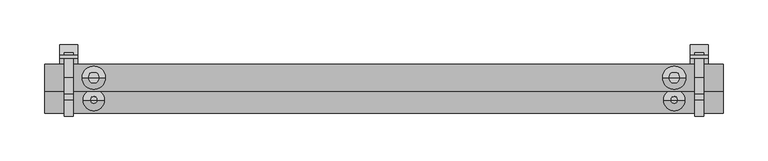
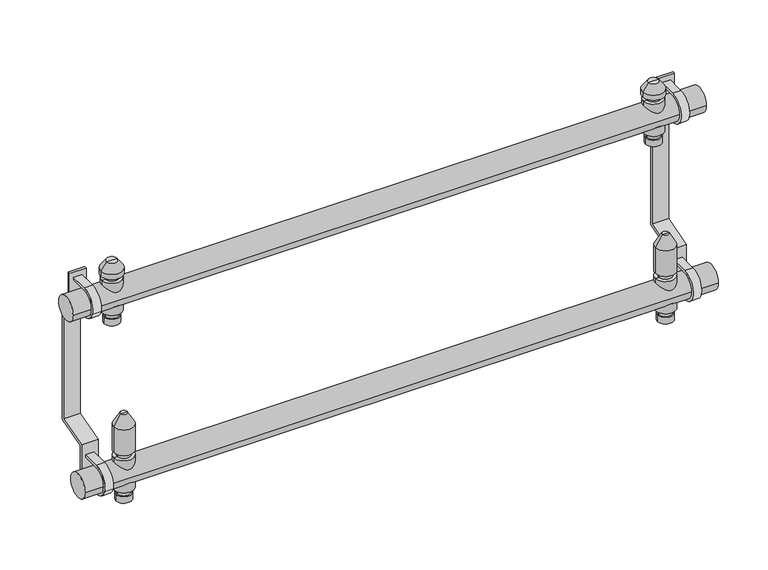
"""IFC4 building model written with IfcOpenShell, lengths in millimetres: valve geometry, PL CZ_Manifold_FT-VA : 14 circuits."""

from ifc_helpers import new_model, si_unit, point, frame, frame_2d, origin, origin_2d, place, context, project, spatial, polyline, circle_curve, trimmed, segment, composite_curve, outline, extrude, source, transform, mapped, element, save
from ifc_brep_helpers import plane_surface, cylinder_surface, revolved_surface, advanced_brep


def valve_e0eb0583(model_context):
    return source(origin(), model_context, "Body", "SolidModel", [
        advanced_brep(
        [(678.5, 0.0, -35.11267), (697.5, 0.0, -35.11267), (688.0, 0.0, -35.11267), (678.5, 0.0, -27.0369646), (697.5, 0.0, -27.0369646), (680.0, 0.0, -27.0369646), (696.0, 0.0, -27.0369646), (680.0, 0.0, -20.330253), (696.0, 0.0, -20.330253), (676.0, 0.0, -20.330253), (700.0, 0.0, -20.330253), (676.0, 0.0, 20.330253), (700.0, 0.0, 20.330253), (680.0, 0.0, 20.330253), (696.0, 0.0, 20.330253), (680.0, 0.0, 27.0474786), (696.0, 0.0, 27.0474786), (676.0, 0.0, 27.0474786), (700.0, 0.0, 27.0474786), (676.0, 0.0, 59.4084325), (700.0, 0.0, 59.4084325), (684.0, 0.0, 73.264839), (692.0, 0.0, 73.264839), (688.0, 0.0, 73.264839)],
        [
            (0, 1, circle_curve(frame((688.0, 0.0, -35.11267), z_axis=(0.0, 0.0, -1.0), x_axis=(1.0, 0.0, 0.0)), 9.5)),
            (1, 2),
            (2, 0),
            (1, 0, circle_curve(frame((688.0, 0.0, -35.11267), z_axis=(0.0, 0.0, -1.0), x_axis=(1.0, 0.0, 0.0)), 9.5)),
            (3, 4, circle_curve(frame((688.0, 0.0, -27.0369646), z_axis=(0.0, 0.0, -1.0), x_axis=(1.0, 0.0, 0.0)), 9.5)),
            (4, 1),
            (0, 3),
            (4, 3, circle_curve(frame((688.0, 0.0, -27.0369646), z_axis=(0.0, 0.0, -1.0), x_axis=(1.0, 0.0, 0.0)), 9.5)),
            (5, 6, circle_curve(frame((688.0, 0.0, -27.0369646), z_axis=(0.0, 0.0, -1.0), x_axis=(1.0, 0.0, 0.0)), 8.0)),
            (6, 4),
            (3, 5),
            (6, 5, circle_curve(frame((688.0, 0.0, -27.0369646), z_axis=(0.0, 0.0, -1.0), x_axis=(1.0, 0.0, 0.0)), 8.0)),
            (7, 8, circle_curve(frame((688.0, 0.0, -20.330253), z_axis=(0.0, 0.0, -1.0), x_axis=(1.0, 0.0, 0.0)), 8.0)),
            (8, 6),
            (5, 7),
            (8, 7, circle_curve(frame((688.0, 0.0, -20.330253), z_axis=(0.0, 0.0, -1.0), x_axis=(1.0, 0.0, 0.0)), 8.0)),
            (9, 10, circle_curve(frame((688.0, 0.0, -20.330253), z_axis=(0.0, 0.0, -1.0), x_axis=(1.0, 0.0, 0.0)), 12.0)),
            (10, 8),
            (7, 9),
            (10, 9, circle_curve(frame((688.0, 0.0, -20.330253), z_axis=(0.0, 0.0, -1.0), x_axis=(1.0, 0.0, 0.0)), 12.0)),
            (11, 12, circle_curve(frame((688.0, 0.0, 20.330253), z_axis=(0.0, 0.0, -1.0), x_axis=(1.0, 0.0, 0.0)), 12.0)),
            (12, 10),
            (9, 11),
            (12, 11, circle_curve(frame((688.0, 0.0, 20.330253), z_axis=(0.0, 0.0, -1.0), x_axis=(1.0, 0.0, 0.0)), 12.0)),
            (13, 14, circle_curve(frame((688.0, 0.0, 20.330253), z_axis=(0.0, 0.0, -1.0), x_axis=(1.0, 0.0, 0.0)), 8.0)),
            (14, 12),
            (11, 13),
            (14, 13, circle_curve(frame((688.0, 0.0, 20.330253), z_axis=(0.0, 0.0, -1.0), x_axis=(1.0, 0.0, 0.0)), 8.0)),
            (15, 16, circle_curve(frame((688.0, 0.0, 27.0474786), z_axis=(0.0, 0.0, -1.0), x_axis=(1.0, 0.0, 0.0)), 8.0)),
            (16, 14),
            (13, 15),
            (16, 15, circle_curve(frame((688.0, 0.0, 27.0474786), z_axis=(0.0, 0.0, -1.0), x_axis=(1.0, 0.0, 0.0)), 8.0)),
            (17, 18, circle_curve(frame((688.0, 0.0, 27.0474786), z_axis=(0.0, 0.0, -1.0), x_axis=(1.0, 0.0, 0.0)), 12.0)),
            (18, 16),
            (15, 17),
            (18, 17, circle_curve(frame((688.0, 0.0, 27.0474786), z_axis=(0.0, 0.0, -1.0), x_axis=(1.0, 0.0, 0.0)), 12.0)),
            (19, 20, circle_curve(frame((688.0, 0.0, 59.4084325), z_axis=(0.0, 0.0, -1.0), x_axis=(1.0, 0.0, 0.0)), 12.0)),
            (20, 18),
            (17, 19),
            (20, 19, circle_curve(frame((688.0, 0.0, 59.4084325), z_axis=(0.0, 0.0, -1.0), x_axis=(1.0, 0.0, 0.0)), 12.0)),
            (21, 22, circle_curve(frame((688.0, 0.0, 73.264839), z_axis=(0.0, 0.0, -1.0), x_axis=(1.0, 0.0, 0.0)), 4.0)),
            (22, 20),
            (19, 21),
            (22, 21, circle_curve(frame((688.0, 0.0, 73.264839), z_axis=(0.0, 0.0, -1.0), x_axis=(1.0, 0.0, 0.0)), 4.0)),
            (23, 22),
            (21, 23),
        ],
        [
            plane_surface(frame((688.0, 0.0, -35.11267), z_axis=(0.0, 0.0, -1.0), x_axis=(1.0, 0.0, 0.0))),
            cylinder_surface(frame((688.0, 0.0, 58.264839), z_axis=(0.0, 0.0, 1.0), x_axis=(1.0, 0.0, 0.0)), 9.5),
            plane_surface(frame((688.0, 0.0, -27.0369646), z_axis=(0.0, 0.0, 1.0), x_axis=(1.0, 0.0, 0.0))),
            cylinder_surface(frame((688.0, 0.0, 58.264839), z_axis=(0.0, 0.0, 1.0), x_axis=(1.0, 0.0, 0.0)), 8.0),
            plane_surface(frame((688.0, 0.0, -20.330253), z_axis=(0.0, 0.0, -1.0), x_axis=(1.0, 0.0, 0.0))),
            cylinder_surface(frame((688.0, 0.0, 58.264839), z_axis=(0.0, 0.0, 1.0), x_axis=(1.0, 0.0, 0.0)), 12.0),
            plane_surface(frame((688.0, 0.0, 20.330253), z_axis=(0.0, 0.0, 1.0), x_axis=(1.0, 0.0, 0.0))),
            plane_surface(frame((688.0, 0.0, 27.0474786), z_axis=(0.0, 0.0, -1.0), x_axis=(1.0, 0.0, 0.0))),
            revolved_surface(polyline([(700.0, 0.0, 59.4084325), (692.0, 0.0, 73.264839)]), (688.0, 0.0, 58.264839), (0.0, 0.0, 1.0)),
            plane_surface(frame((688.0, 0.0, 73.264839), z_axis=(0.0, 0.0, 1.0), x_axis=(1.0, 0.0, 0.0))),
        ],
        [
            (0, [[1, 2, 3]]),
            (0, [[4, -3, -2]]),
            (1, [[5, 6, -1, 7]]),
            (1, [[8, -7, -4, -6]]),
            (2, [[9, 10, -5, 11]]),
            (2, [[12, -11, -8, -10]]),
            (3, [[13, 14, -9, 15]]),
            (3, [[16, -15, -12, -14]]),
            (4, [[17, 18, -13, 19]]),
            (4, [[20, -19, -16, -18]]),
            (5, [[21, 22, -17, 23]]),
            (5, [[24, -23, -20, -22]]),
            (6, [[25, 26, -21, 27]]),
            (6, [[28, -27, -24, -26]]),
            (3, [[29, 30, -25, 31]]),
            (3, [[32, -31, -28, -30]]),
            (7, [[33, 34, -29, 35]]),
            (7, [[36, -35, -32, -34]]),
            (5, [[37, 38, -33, 39]]),
            (5, [[40, -39, -36, -38]]),
            (8, [[41, 42, -37, 43]]),
            (8, [[44, -43, -40, -42]]),
            (9, [[45, -41, 46]]),
            (9, [[-46, -44, -45]]),
        ],
    ),
        advanced_brep(
        [(678.5, 25.0, 174.88733), (697.5, 25.0, 174.88733), (688.0, 25.0, 174.88733), (678.5, 25.0, 182.9630354), (697.5, 25.0, 182.9630354), (680.0, 25.0, 182.9630354), (696.0, 25.0, 182.9630354), (680.0, 25.0, 189.669747), (696.0, 25.0, 189.669747), (676.0, 25.0, 189.669747), (700.0, 25.0, 189.669747), (676.0, 25.0, 230.330253), (700.0, 25.0, 230.330253), (680.0, 25.0, 230.330253), (696.0, 25.0, 230.330253), (680.0, 25.0, 236.0474786), (696.0, 25.0, 236.0474786), (675.0, 25.0, 236.0474786), (701.0, 25.0, 236.0474786), (675.0, 25.0, 242.337955), (701.0, 25.0, 242.337955), (681.6551779, 25.0, 251.842534), (694.3448221, 25.0, 251.842534), (688.0, 25.0, 251.842534)],
        [
            (0, 1, circle_curve(frame((688.0, 25.0, 174.88733), z_axis=(0.0, 0.0, -1.0), x_axis=(1.0, 0.0, 0.0)), 9.5)),
            (1, 2),
            (2, 0),
            (1, 0, circle_curve(frame((688.0, 25.0, 174.88733), z_axis=(0.0, 0.0, -1.0), x_axis=(1.0, 0.0, 0.0)), 9.5)),
            (3, 4, circle_curve(frame((688.0, 25.0, 182.9630354), z_axis=(0.0, 0.0, -1.0), x_axis=(1.0, 0.0, 0.0)), 9.5)),
            (4, 1),
            (0, 3),
            (4, 3, circle_curve(frame((688.0, 25.0, 182.9630354), z_axis=(0.0, 0.0, -1.0), x_axis=(1.0, 0.0, 0.0)), 9.5)),
            (5, 6, circle_curve(frame((688.0, 25.0, 182.9630354), z_axis=(0.0, 0.0, -1.0), x_axis=(1.0, 0.0, 0.0)), 8.0)),
            (6, 4),
            (3, 5),
            (6, 5, circle_curve(frame((688.0, 25.0, 182.9630354), z_axis=(0.0, 0.0, -1.0), x_axis=(1.0, 0.0, 0.0)), 8.0)),
            (7, 8, circle_curve(frame((688.0, 25.0, 189.669747), z_axis=(0.0, 0.0, -1.0), x_axis=(1.0, 0.0, 0.0)), 8.0)),
            (8, 6),
            (5, 7),
            (8, 7, circle_curve(frame((688.0, 25.0, 189.669747), z_axis=(0.0, 0.0, -1.0), x_axis=(1.0, 0.0, 0.0)), 8.0)),
            (9, 10, circle_curve(frame((688.0, 25.0, 189.669747), z_axis=(0.0, 0.0, -1.0), x_axis=(1.0, 0.0, 0.0)), 12.0)),
            (10, 8),
            (7, 9),
            (10, 9, circle_curve(frame((688.0, 25.0, 189.669747), z_axis=(0.0, 0.0, -1.0), x_axis=(1.0, 0.0, 0.0)), 12.0)),
            (11, 12, circle_curve(frame((688.0, 25.0, 230.330253), z_axis=(0.0, 0.0, -1.0), x_axis=(1.0, 0.0, 0.0)), 12.0)),
            (12, 10),
            (9, 11),
            (12, 11, circle_curve(frame((688.0, 25.0, 230.330253), z_axis=(0.0, 0.0, -1.0), x_axis=(1.0, 0.0, 0.0)), 12.0)),
            (13, 14, circle_curve(frame((688.0, 25.0, 230.330253), z_axis=(0.0, 0.0, -1.0), x_axis=(1.0, 0.0, 0.0)), 8.0)),
            (14, 12),
            (11, 13),
            (14, 13, circle_curve(frame((688.0, 25.0, 230.330253), z_axis=(0.0, 0.0, -1.0), x_axis=(1.0, 0.0, 0.0)), 8.0)),
            (15, 16, circle_curve(frame((688.0, 25.0, 236.0474786), z_axis=(0.0, 0.0, -1.0), x_axis=(1.0, 0.0, 0.0)), 8.0)),
            (16, 14),
            (13, 15),
            (16, 15, circle_curve(frame((688.0, 25.0, 236.0474786), z_axis=(0.0, 0.0, -1.0), x_axis=(1.0, 0.0, 0.0)), 8.0)),
            (17, 18, circle_curve(frame((688.0, 25.0, 236.0474786), z_axis=(0.0, 0.0, -1.0), x_axis=(1.0, 0.0, 0.0)), 13.0)),
            (18, 16),
            (15, 17),
            (18, 17, circle_curve(frame((688.0, 25.0, 236.0474786), z_axis=(0.0, 0.0, -1.0), x_axis=(1.0, 0.0, 0.0)), 13.0)),
            (19, 20, circle_curve(frame((688.0, 25.0, 242.337955), z_axis=(0.0, 0.0, -1.0), x_axis=(1.0, 0.0, 0.0)), 13.0)),
            (20, 18),
            (17, 19),
            (20, 19, circle_curve(frame((688.0, 25.0, 242.337955), z_axis=(0.0, 0.0, -1.0), x_axis=(1.0, 0.0, 0.0)), 13.0)),
            (21, 22, circle_curve(frame((688.0, 25.0, 251.842534), z_axis=(0.0, 0.0, -1.0), x_axis=(1.0, 0.0, 0.0)), 6.3448221)),
            (22, 20),
            (19, 21),
            (22, 21, circle_curve(frame((688.0, 25.0, 251.842534), z_axis=(0.0, 0.0, -1.0), x_axis=(1.0, 0.0, 0.0)), 6.3448221)),
            (23, 22),
            (21, 23),
        ],
        [
            plane_surface(frame((688.0, 25.0, 174.88733), z_axis=(0.0, 0.0, -1.0), x_axis=(1.0, 0.0, 0.0))),
            cylinder_surface(frame((688.0, 25.0, 247.7026565), z_axis=(0.0, 0.0, 1.0), x_axis=(1.0, 0.0, 0.0)), 9.5),
            plane_surface(frame((688.0, 25.0, 182.9630354), z_axis=(0.0, 0.0, 1.0), x_axis=(1.0, 0.0, 0.0))),
            cylinder_surface(frame((688.0, 25.0, 247.7026565), z_axis=(0.0, 0.0, 1.0), x_axis=(1.0, 0.0, 0.0)), 8.0),
            plane_surface(frame((688.0, 25.0, 189.669747), z_axis=(0.0, 0.0, -1.0), x_axis=(1.0, 0.0, 0.0))),
            cylinder_surface(frame((688.0, 25.0, 247.7026565), z_axis=(0.0, 0.0, 1.0), x_axis=(1.0, 0.0, 0.0)), 12.0),
            plane_surface(frame((688.0, 25.0, 230.330253), z_axis=(0.0, 0.0, 1.0), x_axis=(1.0, 0.0, 0.0))),
            plane_surface(frame((688.0, 25.0, 236.0474786), z_axis=(0.0, 0.0, -1.0), x_axis=(1.0, 0.0, 0.0))),
            cylinder_surface(frame((688.0, 25.0, 247.7026565), z_axis=(0.0, 0.0, 1.0), x_axis=(1.0, 0.0, 0.0)), 13.0),
            revolved_surface(polyline([(701.0, 25.0, 242.337955), (694.3448221, 25.0, 251.842534)]), (688.0, 25.0, 247.7026565), (0.0, 0.0, 1.0)),
            plane_surface(frame((688.0, 25.0, 251.842534), z_axis=(0.0, 0.0, 1.0), x_axis=(1.0, 0.0, 0.0))),
        ],
        [
            (0, [[1, 2, 3]]),
            (0, [[4, -3, -2]]),
            (1, [[5, 6, -1, 7]]),
            (1, [[8, -7, -4, -6]]),
            (2, [[9, 10, -5, 11]]),
            (2, [[12, -11, -8, -10]]),
            (3, [[13, 14, -9, 15]]),
            (3, [[16, -15, -12, -14]]),
            (4, [[17, 18, -13, 19]]),
            (4, [[20, -19, -16, -18]]),
            (5, [[21, 22, -17, 23]]),
            (5, [[24, -23, -20, -22]]),
            (6, [[25, 26, -21, 27]]),
            (6, [[28, -27, -24, -26]]),
            (3, [[29, 30, -25, 31]]),
            (3, [[32, -31, -28, -30]]),
            (7, [[33, 34, -29, 35]]),
            (7, [[36, -35, -32, -34]]),
            (8, [[37, 38, -33, 39]]),
            (8, [[40, -39, -36, -38]]),
            (9, [[41, 42, -37, 43]]),
            (9, [[44, -43, -40, -42]]),
            (10, [[45, -41, 46]]),
            (10, [[-46, -44, -45]]),
        ],
    ),
        advanced_brep(
        [(28.5, 25.0, 174.88733), (47.5, 25.0, 174.88733), (38.0, 25.0, 174.88733), (28.5, 25.0, 182.9630354), (47.5, 25.0, 182.9630354), (30.0, 25.0, 182.9630354), (46.0, 25.0, 182.9630354), (30.0, 25.0, 189.669747), (46.0, 25.0, 189.669747), (26.0, 25.0, 189.669747), (50.0, 25.0, 189.669747), (26.0, 25.0, 230.330253), (50.0, 25.0, 230.330253), (30.0, 25.0, 230.330253), (46.0, 25.0, 230.330253), (30.0, 25.0, 236.0474786), (46.0, 25.0, 236.0474786), (25.0, 25.0, 236.0474786), (51.0, 25.0, 236.0474786), (25.0, 25.0, 242.337955), (51.0, 25.0, 242.337955), (31.6551779, 25.0, 251.842534), (44.3448221, 25.0, 251.842534), (38.0, 25.0, 251.842534)],
        [
            (0, 1, circle_curve(frame((38.0, 25.0, 174.88733), z_axis=(0.0, 0.0, -1.0), x_axis=(1.0, 0.0, 0.0)), 9.5)),
            (1, 2),
            (2, 0),
            (1, 0, circle_curve(frame((38.0, 25.0, 174.88733), z_axis=(0.0, 0.0, -1.0), x_axis=(1.0, 0.0, 0.0)), 9.5)),
            (3, 4, circle_curve(frame((38.0, 25.0, 182.9630354), z_axis=(0.0, 0.0, -1.0), x_axis=(1.0, 0.0, 0.0)), 9.5)),
            (4, 1),
            (0, 3),
            (4, 3, circle_curve(frame((38.0, 25.0, 182.9630354), z_axis=(0.0, 0.0, -1.0), x_axis=(1.0, 0.0, 0.0)), 9.5)),
            (5, 6, circle_curve(frame((38.0, 25.0, 182.9630354), z_axis=(0.0, 0.0, -1.0), x_axis=(1.0, 0.0, 0.0)), 8.0)),
            (6, 4),
            (3, 5),
            (6, 5, circle_curve(frame((38.0, 25.0, 182.9630354), z_axis=(0.0, 0.0, -1.0), x_axis=(1.0, 0.0, 0.0)), 8.0)),
            (7, 8, circle_curve(frame((38.0, 25.0, 189.669747), z_axis=(0.0, 0.0, -1.0), x_axis=(1.0, 0.0, 0.0)), 8.0)),
            (8, 6),
            (5, 7),
            (8, 7, circle_curve(frame((38.0, 25.0, 189.669747), z_axis=(0.0, 0.0, -1.0), x_axis=(1.0, 0.0, 0.0)), 8.0)),
            (9, 10, circle_curve(frame((38.0, 25.0, 189.669747), z_axis=(0.0, 0.0, -1.0), x_axis=(1.0, 0.0, 0.0)), 12.0)),
            (10, 8),
            (7, 9),
            (10, 9, circle_curve(frame((38.0, 25.0, 189.669747), z_axis=(0.0, 0.0, -1.0), x_axis=(1.0, 0.0, 0.0)), 12.0)),
            (11, 12, circle_curve(frame((38.0, 25.0, 230.330253), z_axis=(0.0, 0.0, -1.0), x_axis=(1.0, 0.0, 0.0)), 12.0)),
            (12, 10),
            (9, 11),
            (12, 11, circle_curve(frame((38.0, 25.0, 230.330253), z_axis=(0.0, 0.0, -1.0), x_axis=(1.0, 0.0, 0.0)), 12.0)),
            (13, 14, circle_curve(frame((38.0, 25.0, 230.330253), z_axis=(0.0, 0.0, -1.0), x_axis=(1.0, 0.0, 0.0)), 8.0)),
            (14, 12),
            (11, 13),
            (14, 13, circle_curve(frame((38.0, 25.0, 230.330253), z_axis=(0.0, 0.0, -1.0), x_axis=(1.0, 0.0, 0.0)), 8.0)),
            (15, 16, circle_curve(frame((38.0, 25.0, 236.0474786), z_axis=(0.0, 0.0, -1.0), x_axis=(1.0, 0.0, 0.0)), 8.0)),
            (16, 14),
            (13, 15),
            (16, 15, circle_curve(frame((38.0, 25.0, 236.0474786), z_axis=(0.0, 0.0, -1.0), x_axis=(1.0, 0.0, 0.0)), 8.0)),
            (17, 18, circle_curve(frame((38.0, 25.0, 236.0474786), z_axis=(0.0, 0.0, -1.0), x_axis=(1.0, 0.0, 0.0)), 13.0)),
            (18, 16),
            (15, 17),
            (18, 17, circle_curve(frame((38.0, 25.0, 236.0474786), z_axis=(0.0, 0.0, -1.0), x_axis=(1.0, 0.0, 0.0)), 13.0)),
            (19, 20, circle_curve(frame((38.0, 25.0, 242.337955), z_axis=(0.0, 0.0, -1.0), x_axis=(1.0, 0.0, 0.0)), 13.0)),
            (20, 18),
            (17, 19),
            (20, 19, circle_curve(frame((38.0, 25.0, 242.337955), z_axis=(0.0, 0.0, -1.0), x_axis=(1.0, 0.0, 0.0)), 13.0)),
            (21, 22, circle_curve(frame((38.0, 25.0, 251.842534), z_axis=(0.0, 0.0, -1.0), x_axis=(1.0, 0.0, 0.0)), 6.3448221)),
            (22, 20),
            (19, 21),
            (22, 21, circle_curve(frame((38.0, 25.0, 251.842534), z_axis=(0.0, 0.0, -1.0), x_axis=(1.0, 0.0, 0.0)), 6.3448221)),
            (23, 22),
            (21, 23),
        ],
        [
            plane_surface(frame((38.0, 25.0, 174.88733), z_axis=(0.0, 0.0, -1.0), x_axis=(1.0, 0.0, 0.0))),
            cylinder_surface(frame((38.0, 25.0, 247.7026565), z_axis=(0.0, 0.0, 1.0), x_axis=(1.0, 0.0, 0.0)), 9.5),
            plane_surface(frame((38.0, 25.0, 182.9630354), z_axis=(0.0, 0.0, 1.0), x_axis=(1.0, 0.0, 0.0))),
            cylinder_surface(frame((38.0, 25.0, 247.7026565), z_axis=(0.0, 0.0, 1.0), x_axis=(1.0, 0.0, 0.0)), 8.0),
            plane_surface(frame((38.0, 25.0, 189.669747), z_axis=(0.0, 0.0, -1.0), x_axis=(1.0, 0.0, 0.0))),
            cylinder_surface(frame((38.0, 25.0, 247.7026565), z_axis=(0.0, 0.0, 1.0), x_axis=(1.0, 0.0, 0.0)), 12.0),
            plane_surface(frame((38.0, 25.0, 230.330253), z_axis=(0.0, 0.0, 1.0), x_axis=(1.0, 0.0, 0.0))),
            plane_surface(frame((38.0, 25.0, 236.0474786), z_axis=(0.0, 0.0, -1.0), x_axis=(1.0, 0.0, 0.0))),
            cylinder_surface(frame((38.0, 25.0, 247.7026565), z_axis=(0.0, 0.0, 1.0), x_axis=(1.0, 0.0, 0.0)), 13.0),
            revolved_surface(polyline([(51.0, 25.0, 242.337955), (44.3448221, 25.0, 251.842534)]), (38.0, 25.0, 247.7026565), (0.0, 0.0, 1.0)),
            plane_surface(frame((38.0, 25.0, 251.842534), z_axis=(0.0, 0.0, 1.0), x_axis=(1.0, 0.0, 0.0))),
        ],
        [
            (0, [[1, 2, 3]]),
            (0, [[4, -3, -2]]),
            (1, [[5, 6, -1, 7]]),
            (1, [[8, -7, -4, -6]]),
            (2, [[9, 10, -5, 11]]),
            (2, [[12, -11, -8, -10]]),
            (3, [[13, 14, -9, 15]]),
            (3, [[16, -15, -12, -14]]),
            (4, [[17, 18, -13, 19]]),
            (4, [[20, -19, -16, -18]]),
            (5, [[21, 22, -17, 23]]),
            (5, [[24, -23, -20, -22]]),
            (6, [[25, 26, -21, 27]]),
            (6, [[28, -27, -24, -26]]),
            (3, [[29, 30, -25, 31]]),
            (3, [[32, -31, -28, -30]]),
            (7, [[33, 34, -29, 35]]),
            (7, [[36, -35, -32, -34]]),
            (8, [[37, 38, -33, 39]]),
            (8, [[40, -39, -36, -38]]),
            (9, [[41, 42, -37, 43]]),
            (9, [[44, -43, -40, -42]]),
            (10, [[45, -41, 46]]),
            (10, [[-46, -44, -45]]),
        ],
    ),
        advanced_brep(
        [(28.5, 0.0, -35.11267), (47.5, 0.0, -35.11267), (38.0, 0.0, -35.11267), (28.5, 0.0, -27.0369646), (47.5, 0.0, -27.0369646), (30.0, 0.0, -27.0369646), (46.0, 0.0, -27.0369646), (30.0, 0.0, -20.330253), (46.0, 0.0, -20.330253), (26.0, 0.0, -20.330253), (50.0, 0.0, -20.330253), (26.0, 0.0, 20.330253), (50.0, 0.0, 20.330253), (30.0, 0.0, 20.330253), (46.0, 0.0, 20.330253), (30.0, 0.0, 27.0474786), (46.0, 0.0, 27.0474786), (26.0, 0.0, 27.0474786), (50.0, 0.0, 27.0474786), (26.0, 0.0, 59.4084325), (50.0, 0.0, 59.4084325), (34.0, 0.0, 73.264839), (42.0, 0.0, 73.264839), (38.0, 0.0, 73.264839)],
        [
            (0, 1, circle_curve(frame((38.0, 0.0, -35.11267), z_axis=(0.0, 0.0, -1.0), x_axis=(1.0, 0.0, 0.0)), 9.5)),
            (1, 2),
            (2, 0),
            (1, 0, circle_curve(frame((38.0, 0.0, -35.11267), z_axis=(0.0, 0.0, -1.0), x_axis=(1.0, 0.0, 0.0)), 9.5)),
            (3, 4, circle_curve(frame((38.0, 0.0, -27.0369646), z_axis=(0.0, 0.0, -1.0), x_axis=(1.0, 0.0, 0.0)), 9.5)),
            (4, 1),
            (0, 3),
            (4, 3, circle_curve(frame((38.0, 0.0, -27.0369646), z_axis=(0.0, 0.0, -1.0), x_axis=(1.0, 0.0, 0.0)), 9.5)),
            (5, 6, circle_curve(frame((38.0, 0.0, -27.0369646), z_axis=(0.0, 0.0, -1.0), x_axis=(1.0, 0.0, 0.0)), 8.0)),
            (6, 4),
            (3, 5),
            (6, 5, circle_curve(frame((38.0, 0.0, -27.0369646), z_axis=(0.0, 0.0, -1.0), x_axis=(1.0, 0.0, 0.0)), 8.0)),
            (7, 8, circle_curve(frame((38.0, 0.0, -20.330253), z_axis=(0.0, 0.0, -1.0), x_axis=(1.0, 0.0, 0.0)), 8.0)),
            (8, 6),
            (5, 7),
            (8, 7, circle_curve(frame((38.0, 0.0, -20.330253), z_axis=(0.0, 0.0, -1.0), x_axis=(1.0, 0.0, 0.0)), 8.0)),
            (9, 10, circle_curve(frame((38.0, 0.0, -20.330253), z_axis=(0.0, 0.0, -1.0), x_axis=(1.0, 0.0, 0.0)), 12.0)),
            (10, 8),
            (7, 9),
            (10, 9, circle_curve(frame((38.0, 0.0, -20.330253), z_axis=(0.0, 0.0, -1.0), x_axis=(1.0, 0.0, 0.0)), 12.0)),
            (11, 12, circle_curve(frame((38.0, 0.0, 20.330253), z_axis=(0.0, 0.0, -1.0), x_axis=(1.0, 0.0, 0.0)), 12.0)),
            (12, 10),
            (9, 11),
            (12, 11, circle_curve(frame((38.0, 0.0, 20.330253), z_axis=(0.0, 0.0, -1.0), x_axis=(1.0, 0.0, 0.0)), 12.0)),
            (13, 14, circle_curve(frame((38.0, 0.0, 20.330253), z_axis=(0.0, 0.0, -1.0), x_axis=(1.0, 0.0, 0.0)), 8.0)),
            (14, 12),
            (11, 13),
            (14, 13, circle_curve(frame((38.0, 0.0, 20.330253), z_axis=(0.0, 0.0, -1.0), x_axis=(1.0, 0.0, 0.0)), 8.0)),
            (15, 16, circle_curve(frame((38.0, 0.0, 27.0474786), z_axis=(0.0, 0.0, -1.0), x_axis=(1.0, 0.0, 0.0)), 8.0)),
            (16, 14),
            (13, 15),
            (16, 15, circle_curve(frame((38.0, 0.0, 27.0474786), z_axis=(0.0, 0.0, -1.0), x_axis=(1.0, 0.0, 0.0)), 8.0)),
            (17, 18, circle_curve(frame((38.0, 0.0, 27.0474786), z_axis=(0.0, 0.0, -1.0), x_axis=(1.0, 0.0, 0.0)), 12.0)),
            (18, 16),
            (15, 17),
            (18, 17, circle_curve(frame((38.0, 0.0, 27.0474786), z_axis=(0.0, 0.0, -1.0), x_axis=(1.0, 0.0, 0.0)), 12.0)),
            (19, 20, circle_curve(frame((38.0, 0.0, 59.4084325), z_axis=(0.0, 0.0, -1.0), x_axis=(1.0, 0.0, 0.0)), 12.0)),
            (20, 18),
            (17, 19),
            (20, 19, circle_curve(frame((38.0, 0.0, 59.4084325), z_axis=(0.0, 0.0, -1.0), x_axis=(1.0, 0.0, 0.0)), 12.0)),
            (21, 22, circle_curve(frame((38.0, 0.0, 73.264839), z_axis=(0.0, 0.0, -1.0), x_axis=(1.0, 0.0, 0.0)), 4.0)),
            (22, 20),
            (19, 21),
            (22, 21, circle_curve(frame((38.0, 0.0, 73.264839), z_axis=(0.0, 0.0, -1.0), x_axis=(1.0, 0.0, 0.0)), 4.0)),
            (23, 22),
            (21, 23),
        ],
        [
            plane_surface(frame((38.0, 0.0, -35.11267), z_axis=(0.0, 0.0, -1.0), x_axis=(1.0, 0.0, 0.0))),
            cylinder_surface(frame((38.0, 0.0, 58.264839), z_axis=(0.0, 0.0, 1.0), x_axis=(1.0, 0.0, 0.0)), 9.5),
            plane_surface(frame((38.0, 0.0, -27.0369646), z_axis=(0.0, 0.0, 1.0), x_axis=(1.0, 0.0, 0.0))),
            cylinder_surface(frame((38.0, 0.0, 58.264839), z_axis=(0.0, 0.0, 1.0), x_axis=(1.0, 0.0, 0.0)), 8.0),
            plane_surface(frame((38.0, 0.0, -20.330253), z_axis=(0.0, 0.0, -1.0), x_axis=(1.0, 0.0, 0.0))),
            cylinder_surface(frame((38.0, 0.0, 58.264839), z_axis=(0.0, 0.0, 1.0), x_axis=(1.0, 0.0, 0.0)), 12.0),
            plane_surface(frame((38.0, 0.0, 20.330253), z_axis=(0.0, 0.0, 1.0), x_axis=(1.0, 0.0, 0.0))),
            plane_surface(frame((38.0, 0.0, 27.0474786), z_axis=(0.0, 0.0, -1.0), x_axis=(1.0, 0.0, 0.0))),
            revolved_surface(polyline([(50.0, 0.0, 59.4084325), (42.0, 0.0, 73.264839)]), (38.0, 0.0, 58.264839), (0.0, 0.0, 1.0)),
            plane_surface(frame((38.0, 0.0, 73.264839), z_axis=(0.0, 0.0, 1.0), x_axis=(1.0, 0.0, 0.0))),
        ],
        [
            (0, [[1, 2, 3]]),
            (0, [[4, -3, -2]]),
            (1, [[5, 6, -1, 7]]),
            (1, [[8, -7, -4, -6]]),
            (2, [[9, 10, -5, 11]]),
            (2, [[12, -11, -8, -10]]),
            (3, [[13, 14, -9, 15]]),
            (3, [[16, -15, -12, -14]]),
            (4, [[17, 18, -13, 19]]),
            (4, [[20, -19, -16, -18]]),
            (5, [[21, 22, -17, 23]]),
            (5, [[24, -23, -20, -22]]),
            (6, [[25, 26, -21, 27]]),
            (6, [[28, -27, -24, -26]]),
            (3, [[29, 30, -25, 31]]),
            (3, [[32, -31, -28, -30]]),
            (7, [[33, 34, -29, 35]]),
            (7, [[36, -35, -32, -34]]),
            (5, [[37, 38, -33, 39]]),
            (5, [[40, -39, -36, -38]]),
            (8, [[41, 42, -37, 43]]),
            (8, [[44, -43, -40, -42]]),
            (9, [[45, -41, 46]]),
            (9, [[-46, -44, -45]]),
        ],
    ),
        extrude(outline(composite_curve([segment(trimmed(circle_curve(origin_2d(), 15.0), [point((0.0, 15.0))], [point((0.0, -15.0))], True, "CARTESIAN"), True, "CONTINUOUS"), segment(polyline([(0.0, -15.0), (27.6751284, -15.0), (27.6751284, -18.0), (0.0, -18.0)]), True, "CONTINUOUS"), segment(trimmed(circle_curve(origin_2d(), 18.0), [point((0.0, -18.0))], [point((0.0, 18.0))], False, "CARTESIAN"), True, "CONTINUOUS"), segment(polyline([(0.0, 18.0), (27.6751284, 18.0), (27.6751284, 15.0), (0.0, 15.0)]), True, "CONTINUOUS")], self_intersect=False)), frame((711.0, 0.0, 0.0), z_axis=(1.0, 0.0, 0.0), x_axis=(0.0, 1.0, 0.0)), (0.0, 0.0, 1.0), 10.0),
        extrude(outline(composite_curve([segment(trimmed(circle_curve(frame_2d((25.0, 210.0)), 15.0), [point((25.0, 225.0))], [point((25.0, 195.0))], True, "CARTESIAN"), True, "CONTINUOUS"), segment(polyline([(25.0, 195.0), (52.6751284, 195.0), (52.6751284, 192.0), (25.0, 192.0)]), True, "CONTINUOUS"), segment(trimmed(circle_curve(frame_2d((25.0, 210.0)), 18.0), [point((25.0, 192.0))], [point((25.0, 228.0))], False, "CARTESIAN"), True, "CONTINUOUS"), segment(polyline([(25.0, 228.0), (52.6751284, 228.0), (52.6751284, 225.0), (25.0, 225.0)]), True, "CONTINUOUS")], self_intersect=False)), frame((711.0, 0.0, 0.0), z_axis=(1.0, 0.0, 0.0), x_axis=(0.0, 1.0, 0.0)), (0.0, 0.0, 1.0), 10.0),
        extrude(outline(polyline([(62.0, 182.8840762), (62.0, 40.6095793), (25.0, 30.0), (25.0, -30.0), (22.0, -30.0), (22.0, 32.2606622), (59.0, 42.8702414), (59.0, 180.3667773), (47.0, 182.4827011), (47.0, 235.0), (50.0, 235.0), (50.0, 185.0), (62.0, 182.8840762)])), frame((706.0, 0.0, 0.0), z_axis=(1.0, 0.0, 0.0), x_axis=(0.0, 1.0, 0.0)), (0.0, 0.0, 1.0), 20.0),
        extrude(outline(composite_curve([segment(trimmed(circle_curve(origin_2d(), 15.0), [point((0.0, 15.0))], [point((0.0, -15.0))], True, "CARTESIAN"), True, "CONTINUOUS"), segment(polyline([(0.0, -15.0), (27.6751284, -15.0), (27.6751284, -18.0), (0.0, -18.0)]), True, "CONTINUOUS"), segment(trimmed(circle_curve(origin_2d(), 18.0), [point((0.0, -18.0))], [point((0.0, 18.0))], False, "CARTESIAN"), True, "CONTINUOUS"), segment(polyline([(0.0, 18.0), (27.6751284, 18.0), (27.6751284, 15.0), (0.0, 15.0)]), True, "CONTINUOUS")], self_intersect=False)), frame((5.0, 0.0, 0.0), z_axis=(1.0, 0.0, 0.0), x_axis=(0.0, 1.0, 0.0)), (0.0, 0.0, 1.0), 10.0),
        extrude(outline(composite_curve([segment(trimmed(circle_curve(frame_2d((25.0, 210.0)), 15.0), [point((25.0, 225.0))], [point((25.0, 195.0))], True, "CARTESIAN"), True, "CONTINUOUS"), segment(polyline([(25.0, 195.0), (52.6751284, 195.0), (52.6751284, 192.0), (25.0, 192.0)]), True, "CONTINUOUS"), segment(trimmed(circle_curve(frame_2d((25.0, 210.0)), 18.0), [point((25.0, 192.0))], [point((25.0, 228.0))], False, "CARTESIAN"), True, "CONTINUOUS"), segment(polyline([(25.0, 228.0), (52.6751284, 228.0), (52.6751284, 225.0), (25.0, 225.0)]), True, "CONTINUOUS")], self_intersect=False)), frame((5.0, 0.0, 0.0), z_axis=(1.0, 0.0, 0.0), x_axis=(0.0, 1.0, 0.0)), (0.0, 0.0, 1.0), 10.0),
        extrude(outline(polyline([(62.0, 182.8840762), (62.0, 40.6095793), (25.0, 30.0), (25.0, -30.0), (22.0, -30.0), (22.0, 32.2606622), (59.0, 42.8702414), (59.0, 180.3667773), (47.0, 182.4827011), (47.0, 235.0), (50.0, 235.0), (50.0, 185.0), (62.0, 182.8840762)])), frame((0.0, 0.0, 0.0), z_axis=(1.0, 0.0, 0.0), x_axis=(0.0, 1.0, 0.0)), (0.0, 0.0, 1.0), 20.0),
        extrude(outline(composite_curve([segment(trimmed(circle_curve(origin_2d(), 15.0), [point((15.0, 0.0))], [point((-15.0, 0.0))], False, "CARTESIAN"), True, "CONTINUOUS"), segment(trimmed(circle_curve(origin_2d(), 15.0), [point((-15.0, 0.0))], [point((15.0, 0.0))], False, "CARTESIAN"), True, "CONTINUOUS")], self_intersect=False)), frame((-17.0, 0.0, 0.0), z_axis=(1.0, 0.0, 0.0), x_axis=(0.0, 1.0, 0.0)), (0.0, 0.0, 1.0), 760.0),
        extrude(outline(composite_curve([segment(trimmed(circle_curve(frame_2d((25.0, 210.0)), 15.0), [point((40.0, 210.0))], [point((10.0, 210.0))], False, "CARTESIAN"), True, "CONTINUOUS"), segment(trimmed(circle_curve(frame_2d((25.0, 210.0)), 15.0), [point((10.0, 210.0))], [point((40.0, 210.0))], False, "CARTESIAN"), True, "CONTINUOUS")], self_intersect=False)), frame((-17.0, 0.0, 0.0), z_axis=(1.0, 0.0, 0.0), x_axis=(0.0, 1.0, 0.0)), (0.0, 0.0, 1.0), 760.0),
    ])


if __name__ == "__main__":
    model = new_model("IFC4")
    model_context = context("Model", 3, world=origin())
    ifc_project = project(units=[si_unit("LENGTHUNIT", "METRE", prefix="MILLI")], contexts=[model_context])
    site = spatial("IfcSite", under=ifc_project)
    building = spatial("IfcBuilding", under=site)
    placement = place(None, origin())
    valve_shape = valve_e0eb0583(model_context)
    element("IfcValve", 1, ObjectType="PL CZ_Manifold_FT-VA : 14 circuits", at=placement, inside=building, context=model_context, shape_type="MappedRepresentation", body=[
        mapped(valve_shape, transform((0.0, 0.0, 0.0), x_axis=(1.0, 0.0, 0.0), y_axis=(0.0, 1.0, 0.0), z_axis=(0.0, 0.0, 1.0))),
    ])
    save(model, "model.ifc")
